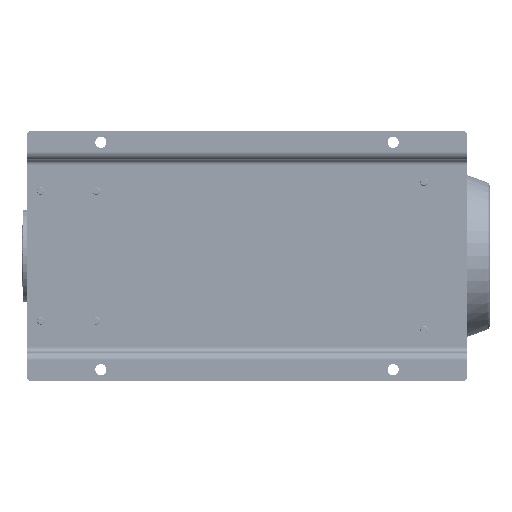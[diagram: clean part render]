
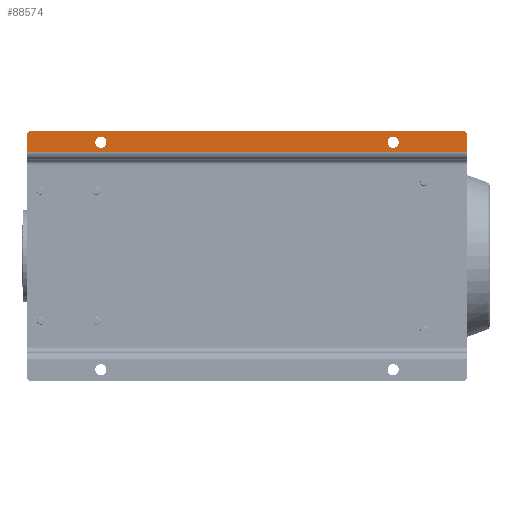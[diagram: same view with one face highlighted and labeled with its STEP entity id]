
A CAD part, front view. The second image highlights one B-rep face of the part: STEP entity #88574.
In plain terms, the highlighted planar face has unit normal (0, -1, 0).
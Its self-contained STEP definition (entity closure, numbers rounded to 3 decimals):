
#1303 = VERTEX_POINT ( 'NONE', #178723 ) ;
#1843 = DIRECTION ( 'NONE',  ( 0., 0., -1. ) ) ;
#2447 = DIRECTION ( 'NONE',  ( 0., 0., -1. ) ) ;
#2781 = ORIENTED_EDGE ( 'NONE', *, *, #28714, .T. ) ;
#7694 = DIRECTION ( 'NONE',  ( 0., 0., -1. ) ) ;
#9107 = CARTESIAN_POINT ( 'NONE',  ( 515., 0., -802. ) ) ;
#12772 = DIRECTION ( 'NONE',  ( 0., 1., 0. ) ) ;
#13072 = CIRCLE ( 'NONE', #236996, 12. ) ;
#22432 = DIRECTION ( 'NONE',  ( 0., -1., 0. ) ) ;
#25498 = CIRCLE ( 'NONE', #186740, 12. ) ;
#28714 = EDGE_CURVE ( 'NONE', #236327, #129569, #48109, .T. ) ;
#29667 = CARTESIAN_POINT ( 'NONE',  ( 540., 0., -950. ) ) ;
#33412 = DIRECTION ( 'NONE',  ( 0., 0., -1. ) ) ;
#35753 = EDGE_CURVE ( 'NONE', #137229, #236327, #136319, .T. ) ;
#36158 = CARTESIAN_POINT ( 'NONE',  ( 495., 0., 0. ) ) ;
#42084 = CARTESIAN_POINT ( 'NONE',  ( 477., 0., 0. ) ) ;
#43969 = PLANE ( 'NONE',  #254283 ) ;
#45982 = VERTEX_POINT ( 'NONE', #179757 ) ;
#48109 = CIRCLE ( 'NONE', #222968, 10. ) ;
#53858 = CIRCLE ( 'NONE', #98732, 12. ) ;
#54605 = LINE ( 'NONE', #180887, #203716 ) ;
#55973 = DIRECTION ( 'NONE',  ( 1., 0., 0. ) ) ;
#57885 = ORIENTED_EDGE ( 'NONE', *, *, #102143, .T. ) ;
#60538 = LINE ( 'NONE', #191005, #133509 ) ;
#63181 = DIRECTION ( 'NONE',  ( 0., 0., -1. ) ) ;
#76913 = DIRECTION ( 'NONE',  ( 0., 1., 0. ) ) ;
#77324 = DIRECTION ( 'NONE',  ( 0., 0., -1. ) ) ;
#79236 = ORIENTED_EDGE ( 'NONE', *, *, #113688, .T. ) ;
#88574 = ADVANCED_FACE ( 'NONE', ( #192741, #233404, #130955 ), #43969, .T. ) ;
#97420 = ORIENTED_EDGE ( 'NONE', *, *, #35753, .T. ) ;
#98732 = AXIS2_PLACEMENT_3D ( 'NONE', #243234, #241858, #112791 ) ;
#98826 = EDGE_CURVE ( 'NONE', #139858, #110283, #25498, .T. ) ;
#99012 = EDGE_CURVE ( 'NONE', #194665, #129569, #253957, .T. ) ;
#102143 = EDGE_CURVE ( 'NONE', #110283, #139858, #13072, .T. ) ;
#103444 = CARTESIAN_POINT ( 'NONE',  ( 515., 0., -790. ) ) ;
#105283 = EDGE_LOOP ( 'NONE', ( #79236, #174466 ) ) ;
#109110 = DIRECTION ( 'NONE',  ( 0., -1., 0. ) ) ;
#110283 = VERTEX_POINT ( 'NONE', #9107 ) ;
#111785 = VERTEX_POINT ( 'NONE', #225236 ) ;
#112207 = EDGE_LOOP ( 'NONE', ( #257428, #210856, #179210, #204675, #97420, #2781 ) ) ;
#112791 = DIRECTION ( 'NONE',  ( 0., 0., -1. ) ) ;
#113688 = EDGE_CURVE ( 'NONE', #45982, #1303, #157222, .T. ) ;
#117525 = ORIENTED_EDGE ( 'NONE', *, *, #98826, .T. ) ;
#124205 = CIRCLE ( 'NONE', #173428, 10. ) ;
#127678 = DIRECTION ( 'NONE',  ( 1., 0., 0. ) ) ;
#127720 = CARTESIAN_POINT ( 'NONE',  ( 530., 0., -10. ) ) ;
#128469 = CARTESIAN_POINT ( 'NONE',  ( 540., 0., -940. ) ) ;
#129569 = VERTEX_POINT ( 'NONE', #273869 ) ;
#130955 = FACE_OUTER_BOUND ( 'NONE', #112207, .T. ) ;
#131842 = EDGE_CURVE ( 'NONE', #194665, #241838, #60538, .T. ) ;
#133288 = CARTESIAN_POINT ( 'NONE',  ( 515., 0., -778. ) ) ;
#133509 = VECTOR ( 'NONE', #147483, 1000. ) ;
#136319 = LINE ( 'NONE', #29667, #254762 ) ;
#137229 = VERTEX_POINT ( 'NONE', #128469 ) ;
#139858 = VERTEX_POINT ( 'NONE', #133288 ) ;
#147483 = DIRECTION ( 'NONE',  ( 0., 0., -1. ) ) ;
#152587 = CARTESIAN_POINT ( 'NONE',  ( 530., 0., -940. ) ) ;
#157222 = CIRCLE ( 'NONE', #188428, 12. ) ;
#163178 = EDGE_CURVE ( 'NONE', #1303, #45982, #53858, .T. ) ;
#171615 = DIRECTION ( 'NONE',  ( 0., -1., 0. ) ) ;
#171824 = CARTESIAN_POINT ( 'NONE',  ( 540., 0., -10. ) ) ;
#173428 = AXIS2_PLACEMENT_3D ( 'NONE', #152587, #109110, #2447 ) ;
#174466 = ORIENTED_EDGE ( 'NONE', *, *, #163178, .T. ) ;
#177139 = CARTESIAN_POINT ( 'NONE',  ( 495., 0., -950. ) ) ;
#178723 = CARTESIAN_POINT ( 'NONE',  ( 515., 0., -172. ) ) ;
#179210 = ORIENTED_EDGE ( 'NONE', *, *, #203787, .T. ) ;
#179757 = CARTESIAN_POINT ( 'NONE',  ( 515., 0., -148. ) ) ;
#180887 = CARTESIAN_POINT ( 'NONE',  ( 477., 0., -950. ) ) ;
#181700 = EDGE_CURVE ( 'NONE', #111785, #137229, #124205, .T. ) ;
#186688 = CARTESIAN_POINT ( 'NONE',  ( 515., 0., -790. ) ) ;
#186740 = AXIS2_PLACEMENT_3D ( 'NONE', #186688, #12772, #77324 ) ;
#188428 = AXIS2_PLACEMENT_3D ( 'NONE', #263060, #264435, #7694 ) ;
#191005 = CARTESIAN_POINT ( 'NONE',  ( 495., 0., -950. ) ) ;
#192741 = FACE_BOUND ( 'NONE', #105283, .T. ) ;
#194665 = VERTEX_POINT ( 'NONE', #36158 ) ;
#203716 = VECTOR ( 'NONE', #55973, 1000. ) ;
#203787 = EDGE_CURVE ( 'NONE', #241838, #111785, #54605, .T. ) ;
#204675 = ORIENTED_EDGE ( 'NONE', *, *, #181700, .T. ) ;
#210856 = ORIENTED_EDGE ( 'NONE', *, *, #131842, .T. ) ;
#216511 = CARTESIAN_POINT ( 'NONE',  ( 477., 0., -950. ) ) ;
#219842 = EDGE_LOOP ( 'NONE', ( #117525, #57885 ) ) ;
#222968 = AXIS2_PLACEMENT_3D ( 'NONE', #127720, #22432, #63181 ) ;
#225236 = CARTESIAN_POINT ( 'NONE',  ( 530., 0., -950. ) ) ;
#233404 = FACE_BOUND ( 'NONE', #219842, .T. ) ;
#236327 = VERTEX_POINT ( 'NONE', #171824 ) ;
#236996 = AXIS2_PLACEMENT_3D ( 'NONE', #103444, #76913, #33412 ) ;
#241838 = VERTEX_POINT ( 'NONE', #177139 ) ;
#241858 = DIRECTION ( 'NONE',  ( 0., 1., 0. ) ) ;
#243234 = CARTESIAN_POINT ( 'NONE',  ( 515., 0., -160. ) ) ;
#245053 = VECTOR ( 'NONE', #127678, 1000. ) ;
#253957 = LINE ( 'NONE', #42084, #245053 ) ;
#254283 = AXIS2_PLACEMENT_3D ( 'NONE', #216511, #171615, #1843 ) ;
#254762 = VECTOR ( 'NONE', #265361, 1000. ) ;
#257428 = ORIENTED_EDGE ( 'NONE', *, *, #99012, .F. ) ;
#263060 = CARTESIAN_POINT ( 'NONE',  ( 515., 0., -160. ) ) ;
#264435 = DIRECTION ( 'NONE',  ( 0., 1., 0. ) ) ;
#265361 = DIRECTION ( 'NONE',  ( 0., 0., 1. ) ) ;
#273869 = CARTESIAN_POINT ( 'NONE',  ( 530., 0., 0. ) ) ;
